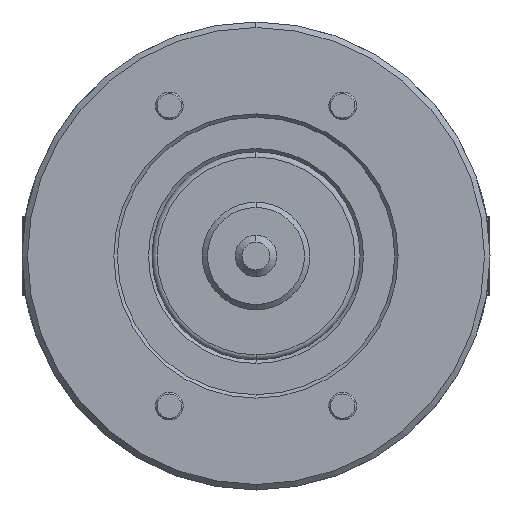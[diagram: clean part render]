
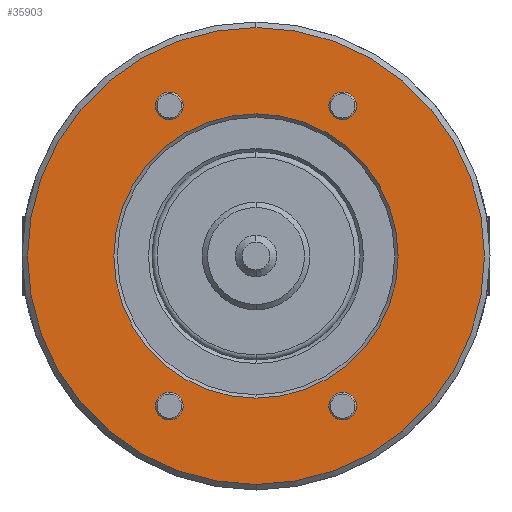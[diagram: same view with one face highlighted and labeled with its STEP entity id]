
A CAD part, left-side view. The second image highlights one B-rep face of the part: STEP entity #35903.
In plain terms, the highlighted planar face has unit normal (-1, 0, 0) as drawn and (0, 0, -1) by its records, which use the part's own axes.
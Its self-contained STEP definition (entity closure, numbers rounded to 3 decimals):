
#277 = CARTESIAN_POINT ( 'NONE',  ( 47.301, -25., -55. ) ) ;
#857 = DIRECTION ( 'NONE',  ( 0., 0., 1. ) ) ;
#1493 = FACE_BOUND ( 'NONE', #9489, .T. ) ;
#1567 = DIRECTION ( 'NONE',  ( 1., 0., 0. ) ) ;
#1725 = CARTESIAN_POINT ( 'NONE',  ( -47.301, 25., -55. ) ) ;
#1752 = VERTEX_POINT ( 'NONE', #1725 ) ;
#2026 = EDGE_LOOP ( 'NONE', ( #38384, #18214 ) ) ;
#2346 = CARTESIAN_POINT ( 'NONE',  ( 39.301, -25., -55. ) ) ;
#2527 = ORIENTED_EDGE ( 'NONE', *, *, #39195, .F. ) ;
#3408 = EDGE_CURVE ( 'NONE', #12639, #6877, #28495, .T. ) ;
#4095 = AXIS2_PLACEMENT_3D ( 'NONE', #26120, #7755, #29191 ) ;
#4189 = CIRCLE ( 'NONE', #29209, 4. ) ;
#4334 = CARTESIAN_POINT ( 'NONE',  ( 43.301, 25., -55. ) ) ;
#4837 = CIRCLE ( 'NONE', #28738, 4. ) ;
#5152 = VERTEX_POINT ( 'NONE', #18862 ) ;
#5782 = AXIS2_PLACEMENT_3D ( 'NONE', #14026, #35489, #17129 ) ;
#6384 = AXIS2_PLACEMENT_3D ( 'NONE', #26012, #19979, #1567 ) ;
#6709 = DIRECTION ( 'NONE',  ( 0., 0., -1. ) ) ;
#6732 = EDGE_CURVE ( 'NONE', #34071, #1752, #22918, .T. ) ;
#6877 = VERTEX_POINT ( 'NONE', #277 ) ;
#6879 = CARTESIAN_POINT ( 'NONE',  ( -39.301, 25., -55. ) ) ;
#7427 = DIRECTION ( 'NONE',  ( 1., 0., 0. ) ) ;
#7755 = DIRECTION ( 'NONE',  ( 0., 0., -1. ) ) ;
#8244 = AXIS2_PLACEMENT_3D ( 'NONE', #25086, #6709, #28148 ) ;
#8383 = CARTESIAN_POINT ( 'NONE',  ( 0., 0., -55. ) ) ;
#8743 = FACE_BOUND ( 'NONE', #16110, .T. ) ;
#8775 = DIRECTION ( 'NONE',  ( 0., 0., -1. ) ) ;
#9489 = EDGE_LOOP ( 'NONE', ( #27000, #39409 ) ) ;
#9704 = EDGE_CURVE ( 'NONE', #6877, #12639, #32798, .T. ) ;
#10581 = CIRCLE ( 'NONE', #11185, 65.9 ) ;
#11185 = AXIS2_PLACEMENT_3D ( 'NONE', #19276, #857, #22336 ) ;
#11482 = DIRECTION ( 'NONE',  ( 1., 0., 0. ) ) ;
#11725 = ORIENTED_EDGE ( 'NONE', *, *, #18589, .T. ) ;
#11784 = CARTESIAN_POINT ( 'NONE',  ( 65.9, 0., -55. ) ) ;
#12639 = VERTEX_POINT ( 'NONE', #2346 ) ;
#12767 = VERTEX_POINT ( 'NONE', #24764 ) ;
#12825 = CIRCLE ( 'NONE', #8244, 4. ) ;
#13057 = DIRECTION ( 'NONE',  ( 0., 0., -1. ) ) ;
#13875 = AXIS2_PLACEMENT_3D ( 'NONE', #31431, #13057, #34495 ) ;
#13893 = AXIS2_PLACEMENT_3D ( 'NONE', #15618, #37084, #18722 ) ;
#14026 = CARTESIAN_POINT ( 'NONE',  ( -43.301, -25., -55. ) ) ;
#15355 = CIRCLE ( 'NONE', #5782, 4. ) ;
#15540 = CARTESIAN_POINT ( 'NONE',  ( 0., 0., -55. ) ) ;
#15618 = CARTESIAN_POINT ( 'NONE',  ( 0., 0., -55. ) ) ;
#16110 = EDGE_LOOP ( 'NONE', ( #20016, #17481 ) ) ;
#16169 = CARTESIAN_POINT ( 'NONE',  ( -43.301, -25., -55. ) ) ;
#16897 = FACE_BOUND ( 'NONE', #37873, .T. ) ;
#17129 = DIRECTION ( 'NONE',  ( 1., 0., 0. ) ) ;
#17481 = ORIENTED_EDGE ( 'NONE', *, *, #6732, .F. ) ;
#17521 = CARTESIAN_POINT ( 'NONE',  ( 43.301, -25., -55. ) ) ;
#17692 = CIRCLE ( 'NONE', #13875, 4. ) ;
#17872 = FACE_BOUND ( 'NONE', #21222, .T. ) ;
#18214 = ORIENTED_EDGE ( 'NONE', *, *, #33567, .F. ) ;
#18371 = EDGE_CURVE ( 'NONE', #5152, #33299, #38256, .T. ) ;
#18589 = EDGE_CURVE ( 'NONE', #33299, #5152, #39277, .T. ) ;
#18635 = DIRECTION ( 'NONE',  ( 1., 0., 0. ) ) ;
#18722 = DIRECTION ( 'NONE',  ( 1., 0., 0. ) ) ;
#18862 = CARTESIAN_POINT ( 'NONE',  ( -41., 0., -55. ) ) ;
#19251 = DIRECTION ( 'NONE',  ( 1., 0., 0. ) ) ;
#19276 = CARTESIAN_POINT ( 'NONE',  ( 0., 0., -55. ) ) ;
#19612 = AXIS2_PLACEMENT_3D ( 'NONE', #27142, #8775, #30229 ) ;
#19979 = DIRECTION ( 'NONE',  ( 0., 0., 1. ) ) ;
#20016 = ORIENTED_EDGE ( 'NONE', *, *, #38594, .F. ) ;
#20343 = CARTESIAN_POINT ( 'NONE',  ( 41., 0., -55. ) ) ;
#20407 = VERTEX_POINT ( 'NONE', #25654 ) ;
#20572 = DIRECTION ( 'NONE',  ( 1., 0., 0. ) ) ;
#21067 = VERTEX_POINT ( 'NONE', #11784 ) ;
#21222 = EDGE_LOOP ( 'NONE', ( #26273, #22065 ) ) ;
#21762 = EDGE_LOOP ( 'NONE', ( #2527, #31171 ) ) ;
#22065 = ORIENTED_EDGE ( 'NONE', *, *, #37029, .F. ) ;
#22257 = VERTEX_POINT ( 'NONE', #23881 ) ;
#22336 = DIRECTION ( 'NONE',  ( 1., 0., 0. ) ) ;
#22881 = AXIS2_PLACEMENT_3D ( 'NONE', #8383, #29833, #11482 ) ;
#22918 = CIRCLE ( 'NONE', #19612, 4. ) ;
#23881 = CARTESIAN_POINT ( 'NONE',  ( 47.301, 25., -55. ) ) ;
#24764 = CARTESIAN_POINT ( 'NONE',  ( -39.301, -25., -55. ) ) ;
#25058 = FACE_BOUND ( 'NONE', #21762, .T. ) ;
#25086 = CARTESIAN_POINT ( 'NONE',  ( 43.301, 25., -55. ) ) ;
#25654 = CARTESIAN_POINT ( 'NONE',  ( 39.301, 25., -55. ) ) ;
#25739 = ORIENTED_EDGE ( 'NONE', *, *, #18371, .T. ) ;
#25801 = DIRECTION ( 'NONE',  ( 0., 0., -1. ) ) ;
#26012 = CARTESIAN_POINT ( 'NONE',  ( 0., -41., -55. ) ) ;
#26120 = CARTESIAN_POINT ( 'NONE',  ( 43.301, -25., -55. ) ) ;
#26273 = ORIENTED_EDGE ( 'NONE', *, *, #33256, .F. ) ;
#26338 = AXIS2_PLACEMENT_3D ( 'NONE', #17521, #38977, #20572 ) ;
#27000 = ORIENTED_EDGE ( 'NONE', *, *, #9704, .F. ) ;
#27142 = CARTESIAN_POINT ( 'NONE',  ( -43.301, 25., -55. ) ) ;
#27333 = CIRCLE ( 'NONE', #28507, 65.9 ) ;
#28148 = DIRECTION ( 'NONE',  ( 1., 0., 0. ) ) ;
#28495 = CIRCLE ( 'NONE', #4095, 4. ) ;
#28507 = AXIS2_PLACEMENT_3D ( 'NONE', #15540, #36996, #18635 ) ;
#28738 = AXIS2_PLACEMENT_3D ( 'NONE', #16169, #37622, #19251 ) ;
#29079 = PLANE ( 'NONE',  #6384 ) ;
#29191 = DIRECTION ( 'NONE',  ( 1., 0., 0. ) ) ;
#29209 = AXIS2_PLACEMENT_3D ( 'NONE', #4334, #25801, #7427 ) ;
#29446 = CARTESIAN_POINT ( 'NONE',  ( -47.301, -25., -55. ) ) ;
#29833 = DIRECTION ( 'NONE',  ( 0., 0., 1. ) ) ;
#30229 = DIRECTION ( 'NONE',  ( 1., 0., 0. ) ) ;
#31171 = ORIENTED_EDGE ( 'NONE', *, *, #35246, .F. ) ;
#31431 = CARTESIAN_POINT ( 'NONE',  ( -43.301, 25., -55. ) ) ;
#32798 = CIRCLE ( 'NONE', #26338, 4. ) ;
#33221 = FACE_OUTER_BOUND ( 'NONE', #2026, .T. ) ;
#33256 = EDGE_CURVE ( 'NONE', #33270, #12767, #15355, .T. ) ;
#33270 = VERTEX_POINT ( 'NONE', #29446 ) ;
#33299 = VERTEX_POINT ( 'NONE', #20343 ) ;
#33567 = EDGE_CURVE ( 'NONE', #37092, #21067, #10581, .T. ) ;
#34071 = VERTEX_POINT ( 'NONE', #6879 ) ;
#34495 = DIRECTION ( 'NONE',  ( 1., 0., 0. ) ) ;
#34780 = CARTESIAN_POINT ( 'NONE',  ( -65.9, 0., -55. ) ) ;
#35246 = EDGE_CURVE ( 'NONE', #20407, #22257, #4189, .T. ) ;
#35489 = DIRECTION ( 'NONE',  ( 0., 0., -1. ) ) ;
#35903 = ADVANCED_FACE ( 'NONE', ( #17872, #25058, #1493, #33221, #16897, #8743 ), #29079, .F. ) ;
#36996 = DIRECTION ( 'NONE',  ( 0., 0., 1. ) ) ;
#37029 = EDGE_CURVE ( 'NONE', #12767, #33270, #4837, .T. ) ;
#37084 = DIRECTION ( 'NONE',  ( 0., 0., 1. ) ) ;
#37092 = VERTEX_POINT ( 'NONE', #34780 ) ;
#37622 = DIRECTION ( 'NONE',  ( 0., 0., -1. ) ) ;
#37873 = EDGE_LOOP ( 'NONE', ( #25739, #11725 ) ) ;
#37904 = EDGE_CURVE ( 'NONE', #21067, #37092, #27333, .T. ) ;
#38256 = CIRCLE ( 'NONE', #22881, 41. ) ;
#38384 = ORIENTED_EDGE ( 'NONE', *, *, #37904, .F. ) ;
#38594 = EDGE_CURVE ( 'NONE', #1752, #34071, #17692, .T. ) ;
#38977 = DIRECTION ( 'NONE',  ( 0., 0., -1. ) ) ;
#39195 = EDGE_CURVE ( 'NONE', #22257, #20407, #12825, .T. ) ;
#39277 = CIRCLE ( 'NONE', #13893, 41. ) ;
#39409 = ORIENTED_EDGE ( 'NONE', *, *, #3408, .F. ) ;
